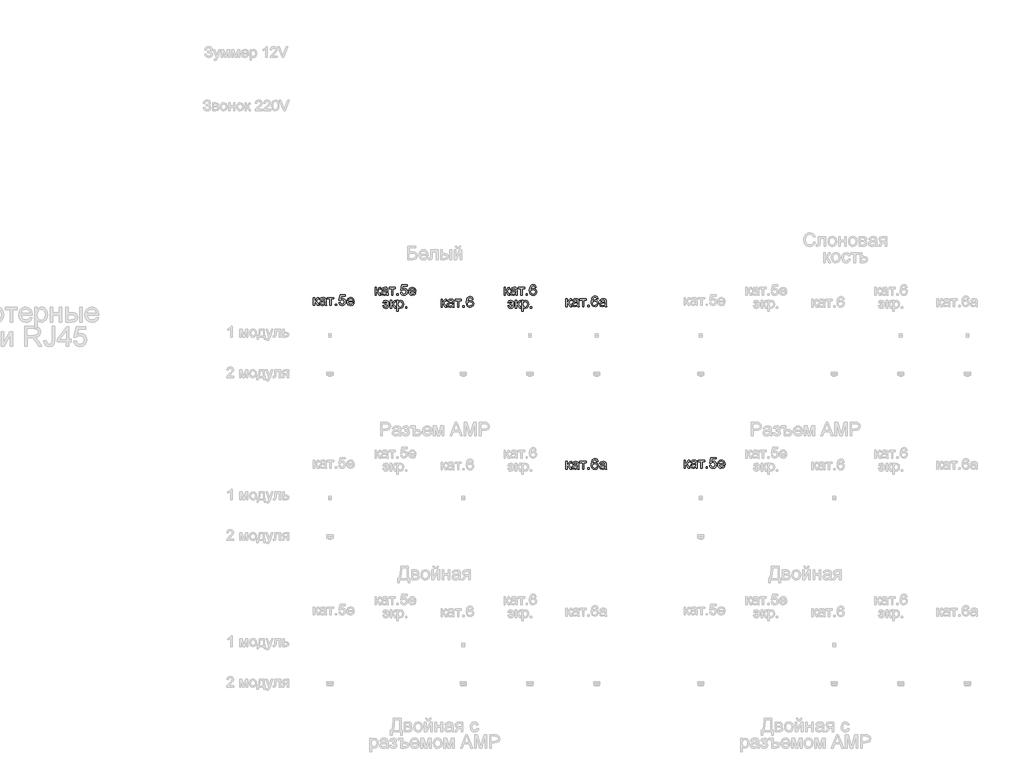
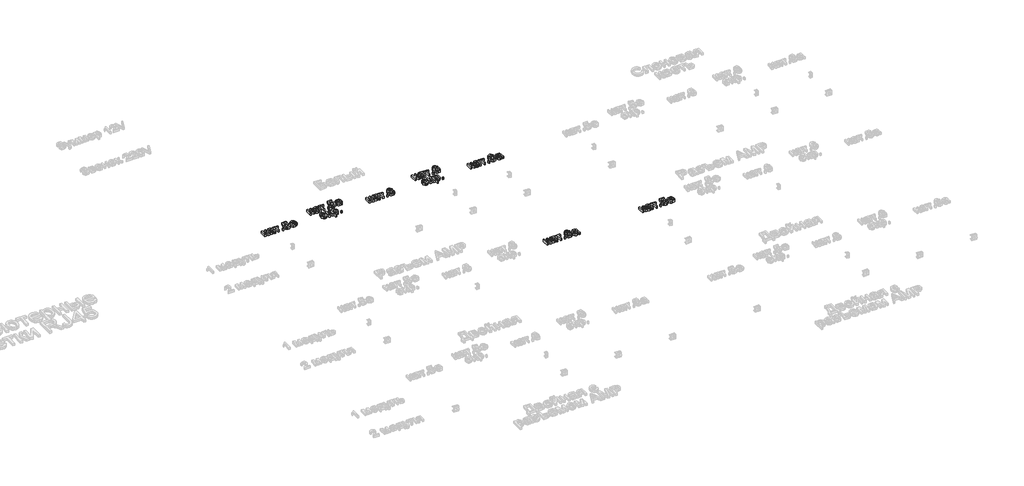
# One storey, part 27 of 47: 7 proxies.
"""IFC4 building model written with IfcOpenShell, lengths in millimetres."""

import ifcopenshell
import ifcopenshell.guid

model = None  # the IFC model being written
_history = None  # IfcOwnerHistory: only IFC2X3 demands one
_inside = {}  # id of a spatial element -> (the spatial element, [elements in it])
_under = {}  # id of a project, library or spatial element -> (it, [spatial elements below it])
_declared = {}  # id of a project -> (the project, [libraries it declares])
_typed = {}  # id of a type object -> (the type object, [elements of that type])
_made_of = {}  # id of a material, layer set ... -> (it, [elements and type objects made of it])


def new_model(schema):
    """Start an empty IFC model of exactly this schema.

    Asked for "IFC4X3", IfcOpenShell would pick the latest addendum, in which some entities
    have other attributes; the version numbers below select the first issue.
    IFC2X3 requires an IfcOwnerHistory on every rooted entity: one is made here for all.
    """
    global model, _history
    if schema == "IFC4X3":
        model = ifcopenshell.file(schema_version=(4, 3, 0, 0))
    else:
        model = ifcopenshell.file(schema=schema)
    _inside.clear()
    _under.clear()
    _declared.clear()
    _typed.clear()
    _made_of.clear()
    _history = None
    if model.schema == "IFC2X3":
        org = make("IfcOrganization", Name="unknown")
        user = make(
            "IfcPersonAndOrganization",
            ThePerson=make("IfcPerson", FamilyName="unknown"),
            TheOrganization=org,
        )
        app = make(
            "IfcApplication",
            ApplicationDeveloper=org,
            Version="unknown",
            ApplicationFullName="unknown",
            ApplicationIdentifier="unknown",
        )
        _history = make(
            "IfcOwnerHistory",
            OwningUser=user,
            OwningApplication=app,
            ChangeAction="ADDED",
            CreationDate=0,
        )
    return model


def make(cls, **values):
    """One entity of the class cls with the attributes given. An attribute that is None is left unset."""
    return model.create_entity(
        cls, **{name: value for name, value in values.items() if value is not None}
    )


def rooted(cls, **values):
    """An entity with a GlobalId (a new one), such as an element, a storey or a relation."""
    return make(cls, GlobalId=ifcopenshell.guid.new(), OwnerHistory=_history, **values)


def si_unit(unit_type, name, prefix=None):
    """IfcSIUnit, for example si_unit("LENGTHUNIT", "METRE", prefix="MILLI")."""
    return make("IfcSIUnit", UnitType=unit_type, Prefix=prefix, Name=name)


def assignment(units):
    """IfcUnitAssignment: the units of a project."""
    return None if units is None else make("IfcUnitAssignment", Units=units)


def point(xyz):
    """IfcCartesianPoint."""
    return None if xyz is None else make("IfcCartesianPoint", Coordinates=xyz)


def direction(xyz):
    """IfcDirection."""
    return None if xyz is None else make("IfcDirection", DirectionRatios=xyz)


def frame(location, z_axis=None, x_axis=None):
    """IfcAxis2Placement3D, a coordinate frame: its origin and axes. An axis left out is left unset."""
    return make(
        "IfcAxis2Placement3D",
        Location=point(location),
        Axis=direction(z_axis),
        RefDirection=direction(x_axis),
    )


def origin():
    """The frame at (0, 0, 0) with its axes left unset."""
    return frame((0.0, 0.0, 0.0))


def origin_with_axes():
    """The frame at (0, 0, 0) with the z axis (0, 0, 1) and the x axis (1, 0, 0) written out."""
    return frame((0.0, 0.0, 0.0), z_axis=(0.0, 0.0, 1.0), x_axis=(1.0, 0.0, 0.0))


def place(relative_to, where):
    """IfcLocalPlacement: puts the frame where relative to a parent placement (None: the world)."""
    return make(
        "IfcLocalPlacement", PlacementRelTo=relative_to, RelativePlacement=where
    )


def context(
    kind, dimensions, precision=None, world=None, true_north=None, identifier=None
):
    """IfcGeometricRepresentationContext, for example the 3D "Model" context."""
    return make(
        "IfcGeometricRepresentationContext",
        ContextIdentifier=identifier,
        ContextType=kind,
        CoordinateSpaceDimension=dimensions,
        Precision=precision,
        WorldCoordinateSystem=world,
        TrueNorth=true_north,
    )


def project(units=None, contexts=None):
    """IfcProject with its units and contexts."""
    return rooted(
        "IfcProject",
        Name="project",
        RepresentationContexts=contexts,
        UnitsInContext=assignment(units),
    )


def spatial(cls, under=None, at=None, **own):
    """A site, building, storey or space (cls), placed at a placement, below another one or the project."""
    s = rooted(cls, ObjectPlacement=at, **own)
    if under is not None:
        _under.setdefault(under.id(), (under, []))[1].append(s)
    return s


def polyline(points):
    """IfcPolyline through the points."""
    return make("IfcPolyline", Points=[point(p) for p in points])


def outline(outer, holes=None, kind="AREA"):
    """IfcArbitraryClosedProfileDef: a profile drawn as a closed curve; with holes, ...WithVoids."""
    if holes is None:
        return make("IfcArbitraryClosedProfileDef", ProfileType=kind, OuterCurve=outer)
    return make(
        "IfcArbitraryProfileDefWithVoids",
        ProfileType=kind,
        OuterCurve=outer,
        InnerCurves=holes,
    )


def extrude(swept, where, along, depth):
    """IfcExtrudedAreaSolid: the profile swept, set in the frame where, extruded along a direction by depth."""
    return make(
        "IfcExtrudedAreaSolid",
        SweptArea=swept,
        Position=where,
        ExtrudedDirection=direction(along),
        Depth=depth,
    )


def shape(context_of_items, identifier, shape_type, items):
    """IfcShapeRepresentation: the items that make up one representation, for example the "Body"."""
    return make(
        "IfcShapeRepresentation",
        ContextOfItems=context_of_items,
        RepresentationIdentifier=identifier,
        RepresentationType=shape_type,
        Items=items,
    )


def made_of(thing, what):
    """Note that an element or type object is made of a material, layer set ...; save() writes the relation."""
    if what is not None:
        _made_of.setdefault(what.id(), (what, []))[1].append(thing)
    return thing


def element(
    cls,
    number,
    at=None,
    inside=None,
    cuts=None,
    type_object=None,
    material=None,
    context=None,
    identifier="Body",
    shape_type=None,
    held_by="IfcProductDefinitionShape",
    body=None,
    shapes=None,
    **own,
):
    """One element of the class cls, such as IfcWall. Its Tag is "e" and its number.

    at: its placement. inside: the storey or other place that contains it. cuts: it is an
    opening in that element (IfcRelVoidsElement). A single representation is given by context,
    identifier, shape_type and body (its items); several are given by shapes. held_by: the class
    of the entity that holds the representations. save() writes the other relations.
    """
    e = rooted(cls, Tag="e%d" % number, ObjectPlacement=at, **own)
    if body is not None:
        shapes = [shape(context, identifier, shape_type, body)]
    if shapes is not None:
        e.Representation = make(held_by, Representations=shapes)
    if inside is not None:
        _inside.setdefault(inside.id(), (inside, []))[1].append(e)
    if cuts is not None:
        rooted(
            "IfcRelVoidsElement", RelatingBuildingElement=cuts, RelatedOpeningElement=e
        )
    if type_object is not None:
        _typed.setdefault(type_object.id(), (type_object, []))[1].append(e)
    return made_of(e, material)


def aggregate(whole, parts):
    """IfcRelAggregates: a whole, such as a stair, and the parts it consists of."""
    return rooted("IfcRelAggregates", RelatingObject=whole, RelatedObjects=parts)


def save(model, path):
    """Write the relations noted so far, then the file.

    IfcRelAggregates (storeys below a building ...), IfcRelContainedInSpatialStructure (elements
    in a storey), IfcRelDefinesByType, IfcRelAssociatesMaterial and IfcRelDeclares: one each for
    every whole, place, type object, material and project.
    """
    for whole, parts in _under.values():
        aggregate(whole, parts)
    for where, things in _inside.values():
        rooted(
            "IfcRelContainedInSpatialStructure",
            RelatedElements=things,
            RelatingStructure=where,
        )
    for kind, things in _typed.values():
        rooted("IfcRelDefinesByType", RelatedObjects=things, RelatingType=kind)
    for what, things in _made_of.values():
        rooted("IfcRelAssociatesMaterial", RelatedObjects=things, RelatingMaterial=what)
    for by, libraries in _declared.values():
        rooted("IfcRelDeclares", RelatingContext=by, RelatedDefinitions=libraries)
    model.write(path)


model = new_model("IFC4")

# Units and contexts
model_context = context("Model", 3, world=origin())
ifc_project = project(units=[si_unit("LENGTHUNIT", "METRE", prefix="MILLI")], contexts=[model_context])

# Site, building, storey
site = spatial("IfcSite", under=ifc_project)
building = spatial("IfcBuilding", under=site)
storey = spatial("IfcBuildingStorey", under=building, Name="Этаж 01", Elevation=0.0)

# Proxies
placement = place(None, origin())
element("IfcBuildingElementProxy", 1, Name="80 мм Arial", ObjectType="80 мм Arial", at=placement, inside=storey, context=model_context, shape_type="SweptSolid", body=[
    extrude(outline(polyline([(-119.3935865, -20034.963684), (-109.3479555, -20034.963684), (-109.3479555, -20060.0777615), (-102.6181676, -20058.2726872), (-97.1048427, -20047.7561672), (-92.5234856, -20038.6817447), (-88.4816888, -20035.7288785), (-81.133859, -20034.963684), (-79.2110625, -20034.963684), (-79.2110625, -20045.0681761), (-81.918674, -20045.009315), (-86.8237672, -20046.0688151), (-90.2769529, -20052.6808809), (-94.3285599, -20059.8325069), (-100.0086579, -20063.3347434), (-93.6712774, -20067.2441028), (-87.4516192, -20075.4797544), (-76.6996547, -20093.9817662), (-88.1187119, -20093.9817662), (-98.6548522, -20075.8721618), (-103.9523529, -20068.2104062), (-109.3479555, -20066.3562809), (-109.3479555, -20093.9817662), (-119.3935865, -20093.9817662), (-119.3935865, -20034.963684)])), origin_with_axes(), (0.0, 0.0, 1.0), 20.0),
    extrude(outline(polyline([(-32.750019, -20086.4475429), (-42.4915343, -20093.2558124), (-53.2533089, -20095.2374701), (-67.8410563, -20090.4697194), (-72.9325431, -20078.2854677), (-71.0097465, -20070.3392166), (-65.9575005, -20064.570827), (-58.9235967, -20061.2746043), (-50.2317715, -20059.7638355), (-32.8088802, -20056.3106499), (-32.750019, -20054.0739274), (-35.5164916, -20046.6574263), (-46.6216228, -20043.7536111), (-56.7849761, -20045.6862179), (-61.6312082, -20052.5435383), (-71.6768392, -20051.2878344), (-67.3309266, -20041.4776478), (-58.5802402, -20035.7288785), (-45.3266782, -20033.7079801), (-33.1522367, -20035.4934341), (-26.2752959, -20039.9766893), (-23.1948974, -20046.7947689), (-22.704388, -20055.5846961), (-22.704388, -20068.0828737), (-22.1942583, -20085.5351956), (-20.1929803, -20093.9817662), (-30.2386113, -20093.9817662), (-32.750019, -20086.4475429)]), holes=[polyline([(-32.750019, -20066.3562809), (-48.9564472, -20069.4366795), (-57.5992215, -20071.0651704), (-61.513486, -20073.7139208), (-62.8869121, -20077.5791343), (-59.8948052, -20083.0139776), (-51.1146882, -20085.1918391), (-40.951335, -20082.7883434), (-34.3981304, -20076.9709027), (-32.8088802, -20069.201235), (-32.750019, -20066.3562809)])]), origin_with_axes(), (0.0, 0.0, 1.0), 20.0),
    extrude(outline(polyline([(-13.9144609, -20034.963684), (33.8022864, -20034.963684), (33.8022864, -20045.009315), (14.9667283, -20045.009315), (14.9667283, -20093.9817662), (4.9210973, -20093.9817662), (4.9210973, -20045.009315), (-13.9144609, -20045.009315), (-13.9144609, -20034.963684)])), origin_with_axes(), (0.0, 0.0, 1.0), 20.0),
    extrude(outline(polyline([(45.1036213, -20093.9817662), (45.1036213, -20083.9361352), (55.1492523, -20083.9361352), (55.1492523, -20093.9817662), (45.1036213, -20093.9817662)])), origin_with_axes(), (0.0, 0.0, 1.0), 20.0),
    extrude(outline(polyline([(71.4734027, -20072.6348003), (81.5190338, -20071.3790964), (86.58109, -20081.7288432), (97.0779896, -20085.1918391), (109.6742691, -20080.3750375), (114.1673346, -20067.5923644), (109.9587645, -20055.6631776), (97.2349526, -20051.2878344), (88.4155949, -20053.0340476), (82.7747376, -20057.5663538), (72.7291066, -20056.3106499), (81.5190338, -20014.872422), (120.4458539, -20014.872422), (120.4458539, -20024.918053), (89.6418682, -20024.918053), (85.3450065, -20047.0498338), (100.0406659, -20041.2422034), (109.4265619, -20043.0423726), (117.2183026, -20048.4428803), (122.4642998, -20056.6736268), (124.2129656, -20066.9645125), (122.6384306, -20077.0101435), (117.9148258, -20085.6038669), (108.8698338, -20092.8290693), (97.0387489, -20095.2374701), (87.1721537, -20093.6899131), (79.3117418, -20089.0472424), (73.9234968, -20081.849018), (71.4734027, -20072.6348003)])), origin_with_axes(), (0.0, 0.0, 1.0), 20.0),
    extrude(outline(polyline([(176.8348062, -20076.4019119), (186.6842334, -20077.6576158), (177.4724683, -20090.6266824), (160.314452, -20095.2374701), (148.5275129, -20093.2484548), (139.4579954, -20087.2814088), (133.6748905, -20077.7238346), (131.7471888, -20064.9632344), (133.6945109, -20051.7734386), (139.5364769, -20041.9092961), (148.4833671, -20035.7583091), (159.7454612, -20033.7079801), (170.6568412, -20035.753404), (179.3756445, -20041.8896757), (185.0925307, -20051.7341979), (186.9981594, -20064.9043733), (186.9392983, -20067.6119848), (141.7928198, -20067.6119848), (147.5710197, -20080.6595329), (160.5106558, -20085.1918391), (170.360083, -20083.0924591), (176.8348062, -20076.4019119)]), holes=[polyline([(141.7928198, -20057.5663538), (176.9525284, -20057.5663538), (172.9303519, -20048.4625007), (159.7062205, -20043.7536111), (147.3355752, -20047.5109126), (141.7928198, -20057.5663538)])]), origin_with_axes(), (0.0, 0.0, 1.0), 20.0),
])
element("IfcBuildingElementProxy", 2, Name="80 мм Arial", ObjectType="80 мм Arial", at=placement, inside=storey, context=model_context, shape_type="SweptSolid", body=[
    extrude(outline(polyline([(343.2827356, -19958.8197599), (353.3283666, -19958.8197599), (353.3283666, -19983.9338374), (360.0581546, -19982.1287631), (365.5714794, -19971.6122431), (370.1528365, -19962.5378206), (374.1946334, -19959.5849544), (381.5424631, -19958.8197599), (383.4652597, -19958.8197599), (383.4652597, -19968.924252), (380.7576482, -19968.8653909), (375.8525549, -19969.924891), (372.3993693, -19976.5369568), (368.3477622, -19983.6885828), (362.6676642, -19987.1908193), (369.0050447, -19991.1001787), (375.224703, -19999.3358303), (385.9766674, -20017.8378421), (374.5576103, -20017.8378421), (364.02147, -19999.7282377), (358.7239692, -19992.0664821), (353.3283666, -19990.2123568), (353.3283666, -20017.8378421), (343.2827356, -20017.8378421), (343.2827356, -19958.8197599)])), origin_with_axes(), (0.0, 0.0, 1.0), 20.0),
    extrude(outline(polyline([(429.9263031, -20010.3036188), (420.1847879, -20017.1118883), (409.4230133, -20019.093546), (394.8352659, -20014.3257953), (389.7437791, -20002.1415436), (391.6665756, -19994.1952925), (396.7188217, -19988.4269029), (403.7527254, -19985.1306802), (412.4445507, -19983.6199114), (429.867442, -19980.1667258), (429.9263031, -19977.9300033), (427.1598305, -19970.5135022), (416.0546994, -19967.609687), (405.8913461, -19969.5422938), (401.045114, -19976.3996142), (390.9994829, -19975.1439103), (395.3453956, -19965.3337237), (404.096082, -19959.5849544), (417.349644, -19957.564056), (429.5240855, -19959.34951), (436.4010262, -19963.8327652), (439.4814248, -19970.6508448), (439.9719341, -19979.440772), (439.9719341, -19991.9389496), (440.4820638, -20009.3912715), (442.4833419, -20017.8378421), (432.4377109, -20017.8378421), (429.9263031, -20010.3036188)]), holes=[polyline([(429.9263031, -19990.2123568), (413.719875, -19993.2927554), (405.0771006, -19994.9212463), (401.1628362, -19997.5699967), (399.7894101, -20001.4352102), (402.781517, -20006.8700535), (411.5616339, -20009.047915), (421.7249872, -20006.6444193), (428.2781918, -20000.8269786), (429.867442, -19993.0573109), (429.9263031, -19990.2123568)])]), origin_with_axes(), (0.0, 0.0, 1.0), 20.0),
    extrude(outline(polyline([(448.7618613, -19958.8197599), (496.4786086, -19958.8197599), (496.4786086, -19968.8653909), (477.6430504, -19968.8653909), (477.6430504, -20017.8378421), (467.5974194, -20017.8378421), (467.5974194, -19968.8653909), (448.7618613, -19968.8653909), (448.7618613, -19958.8197599)])), origin_with_axes(), (0.0, 0.0, 1.0), 20.0),
    extrude(outline(polyline([(507.7799435, -20017.8378421), (507.7799435, -20007.7922111), (517.8255745, -20007.7922111), (517.8255745, -20017.8378421), (507.7799435, -20017.8378421)])), origin_with_axes(), (0.0, 0.0, 1.0), 20.0),
    extrude(outline(polyline([(534.1497249, -19996.4908762), (544.1953559, -19995.2351723), (549.2574122, -20005.5849191), (559.7543118, -20009.047915), (572.3505913, -20004.2311134), (576.8436567, -19991.4484403), (572.6350867, -19979.5192535), (559.9112748, -19975.1439103), (551.0919171, -19976.8901235), (545.4510598, -19981.4224297), (535.4054288, -19980.1667258), (544.1953559, -19938.7284978), (583.1221761, -19938.7284978), (583.1221761, -19948.7741289), (552.3181904, -19948.7741289), (548.0213287, -19970.9059097), (562.7169881, -19965.0982793), (572.1028841, -19966.8984485), (579.8946247, -19972.2989562), (585.140622, -19980.5297027), (586.8892877, -19990.8205884), (585.3147528, -20000.8662194), (580.591148, -20009.4599428), (571.546156, -20016.6851452), (559.715071, -20019.093546), (549.8484759, -20017.545989), (541.9880639, -20012.9033183), (536.599819, -20005.7050939), (534.1497249, -19996.4908762)])), origin_with_axes(), (0.0, 0.0, 1.0), 20.0),
    extrude(outline(polyline([(639.5111283, -20000.2579878), (649.3605556, -20001.5136917), (640.1487904, -20014.4827583), (622.9907742, -20019.093546), (611.2038351, -20017.1045306), (602.1343176, -20011.1374847), (596.3512126, -20001.5799105), (594.423511, -19988.8193103), (596.370833, -19975.6295145), (602.2127991, -19965.7653719), (611.1596892, -19959.614385), (622.4217834, -19957.564056), (633.3331634, -19959.6094799), (642.0519666, -19965.7457516), (647.7688528, -19975.5902738), (649.6744816, -19988.7604492), (649.6156205, -19991.4680607), (604.469142, -19991.4680607), (610.2473419, -20004.5156088), (623.1869779, -20009.047915), (633.0364052, -20006.948535), (639.5111283, -20000.2579878)]), holes=[polyline([(604.469142, -19981.4224297), (639.6288506, -19981.4224297), (635.6066741, -19972.3185766), (622.3825426, -19967.609687), (610.0118974, -19971.3669885), (604.469142, -19981.4224297)])]), origin_with_axes(), (0.0, 0.0, 1.0), 20.0),
    extrude(outline(polyline([(418.6249682, -20079.0022839), (437.4605264, -20079.0022839), (432.91841, -20069.0253242), (423.3730985, -20065.1895413), (415.2306437, -20067.700949), (411.090745, -20075.2351723), (401.045114, -20073.9794684), (407.9416751, -20060.4119804), (422.764867, -20055.1439103), (433.0189644, -20057.1942393), (440.8646611, -20063.3452262), (445.8457833, -20073.0867415), (447.5061574, -20085.9086553), (446.1351838, -20098.6717079), (441.3944112, -20108.7075288), (433.6468164, -20115.0350991), (423.2553763, -20116.6734002), (414.3477269, -20115.2043248), (407.3236333, -20110.7970985), (399.7894101, -20095.3264343), (409.8350411, -20094.0707305), (414.1613334, -20103.4885095), (423.0984133, -20106.6277692), (433.0459424, -20102.2328057), (437.4605264, -20089.047915), (418.6249682, -20089.047915), (418.6249682, -20079.0022839)])), origin_with_axes(), (0.0, 0.0, 1.0), 20.0),
    extrude(outline(polyline([(458.8074923, -20056.3996142), (468.8531233, -20056.3996142), (468.8531233, -20081.5136917), (475.5829113, -20079.7086174), (481.0962361, -20069.1920974), (485.6775932, -20060.1176749), (489.7193901, -20057.1648087), (497.0672198, -20056.3996142), (498.9900164, -20056.3996142), (498.9900164, -20066.5041063), (496.2824049, -20066.4452452), (491.3773116, -20067.5047453), (487.9241259, -20074.116811), (483.8725189, -20081.268437), (478.1924209, -20084.7706736), (484.5298014, -20088.680033), (490.7494597, -20096.9156846), (501.5014241, -20115.4176964), (490.082367, -20115.4176964), (479.5462266, -20097.308092), (474.2487259, -20089.6463363), (468.8531233, -20087.7922111), (468.8531233, -20115.4176964), (458.8074923, -20115.4176964), (458.8074923, -20056.3996142)])), origin_with_axes(), (0.0, 0.0, 1.0), 20.0),
    extrude(outline(polyline([(507.7799435, -20138.0203662), (507.7799435, -20056.3996142), (517.8255745, -20056.3996142), (517.8255745, -20066.2490414), (524.7711866, -20057.9201931), (534.1497249, -20055.1439103), (546.883347, -20059.0287441), (555.2023852, -20069.9769123), (558.0080986, -20085.4573867), (554.8394083, -20101.7324861), (545.6374533, -20112.8179969), (532.9332618, -20116.6734002), (524.1923856, -20114.0933212), (517.8255745, -20107.5695471), (517.8255745, -20138.0203662), (507.7799435, -20138.0203662)]), holes=[polyline([(517.8255745, -20086.3795442), (522.1714871, -20101.6834352), (532.7174377, -20106.6277692), (543.4792123, -20101.5068519), (547.9624676, -20085.63397), (543.5871244, -20070.2908383), (533.1294655, -20065.1895413), (522.4657927, -20070.6145744), (517.8255745, -20086.3795442)])]), origin_with_axes(), (0.0, 0.0, 1.0), 20.0),
    extrude(outline(polyline([(571.8208412, -20115.4176964), (571.8208412, -20105.3720654), (581.8664722, -20105.3720654), (581.8664722, -20115.4176964), (571.8208412, -20115.4176964)])), origin_with_axes(), (0.0, 0.0, 1.0), 20.0),
])
element("IfcBuildingElementProxy", 3, Name="80 мм Arial", ObjectType="80 мм Arial", at=placement, inside=storey, context=model_context, shape_type="SweptSolid", body=[
    extrude(outline(polyline([(837.8748928, -20047.654338), (847.9205238, -20047.654338), (847.9205238, -20072.7684155), (854.6503118, -20070.9633412), (860.1636366, -20060.4468212), (864.7449937, -20051.3723987), (868.7867906, -20048.4195325), (876.1346203, -20047.654338), (878.0574169, -20047.654338), (878.0574169, -20057.7588301), (875.3498054, -20057.699969), (870.4447121, -20058.7594692), (866.9915264, -20065.3715349), (862.9399194, -20072.5231609), (857.2598214, -20076.0253975), (863.5972019, -20079.9347568), (869.8168602, -20088.1704084), (880.5688246, -20106.6724202), (869.1497675, -20106.6724202), (858.6136271, -20088.5628159), (853.3161264, -20080.9010602), (847.9205238, -20079.0469349), (847.9205238, -20106.6724202), (837.8748928, -20106.6724202), (837.8748928, -20047.654338)])), origin_with_axes(), (0.0, 0.0, 1.0), 20.0),
    extrude(outline(polyline([(924.5184603, -20099.1381969), (914.7769451, -20105.9464664), (904.0151704, -20107.9281241), (889.4274231, -20103.1603734), (884.3359362, -20090.9761218), (886.2587328, -20083.0298707), (891.3109789, -20077.261481), (898.3448826, -20073.9652583), (907.0367079, -20072.4544896), (924.4595992, -20069.0013039), (924.5184603, -20066.7645814), (921.7519877, -20059.3480804), (910.6468565, -20056.4442651), (900.4835033, -20058.3768719), (895.6372711, -20065.2341923), (885.5916401, -20063.9784884), (889.9375528, -20054.1683019), (898.6882391, -20048.4195325), (911.9418012, -20046.3986341), (924.1162427, -20048.1840881), (930.9931834, -20052.6673433), (934.073582, -20059.485423), (934.5640913, -20068.2753501), (934.5640913, -20080.7735278), (935.074221, -20098.2258496), (937.0754991, -20106.6724202), (927.0298681, -20106.6724202), (924.5184603, -20099.1381969)]), holes=[polyline([(924.5184603, -20079.0469349), (908.3120321, -20082.1273335), (899.6692578, -20083.7558245), (895.7549934, -20086.4045748), (894.3815673, -20090.2697883), (897.3736742, -20095.7046317), (906.1537911, -20097.8824931), (916.3171444, -20095.4789974), (922.870349, -20089.6615568), (924.4595992, -20081.891889), (924.5184603, -20079.0469349)])]), origin_with_axes(), (0.0, 0.0, 1.0), 20.0),
    extrude(outline(polyline([(943.3540185, -20047.654338), (991.0707658, -20047.654338), (991.0707658, -20057.699969), (972.2352076, -20057.699969), (972.2352076, -20106.6724202), (962.1895766, -20106.6724202), (962.1895766, -20057.699969), (943.3540185, -20057.699969), (943.3540185, -20047.654338)])), origin_with_axes(), (0.0, 0.0, 1.0), 20.0),
    extrude(outline(polyline([(1002.3721007, -20106.6724202), (1002.3721007, -20096.6267892), (1012.4177317, -20096.6267892), (1012.4177317, -20106.6724202), (1002.3721007, -20106.6724202)])), origin_with_axes(), (0.0, 0.0, 1.0), 20.0),
    extrude(outline(polyline([(1080.225741, -20047.654338), (1070.18011, -20048.9100419), (1066.3737576, -20040.5321426), (1056.3085063, -20036.3530031), (1047.2438939, -20038.7859294), (1040.3865735, -20047.919213), (1037.5318092, -20065.8228035), (1046.3904077, -20057.8078811), (1057.3680064, -20055.1885613), (1066.6484429, -20056.9789203), (1074.437731, -20062.3499974), (1079.7205164, -20070.5562185), (1081.4814449, -20080.8520092), (1078.1656019, -20094.7138028), (1069.0421284, -20104.5239894), (1055.876858, -20107.9281241), (1044.4798738, -20105.6717812), (1035.4029987, -20098.9027525), (1029.4653833, -20086.9539453), (1027.4861782, -20069.1582669), (1029.68366, -20049.1503914), (1036.2761053, -20035.4700863), (1045.2769515, -20028.5980506), (1056.9363582, -20026.3073721), (1065.7508108, -20027.724944), (1072.80924, -20031.9776599), (1080.225741, -20047.654338)]), holes=[polyline([(1037.5318092, -20080.6950463), (1039.8568234, -20089.3966817), (1046.0372409, -20095.7144418), (1055.0920431, -20097.8824931), (1066.9329383, -20093.3894276), (1071.4358139, -20081.1855556), (1066.9917994, -20069.5016234), (1054.6800153, -20065.2341923), (1042.5251942, -20069.5016234), (1037.5318092, -20080.6950463)])]), origin_with_axes(), (0.0, 0.0, 1.0), 20.0),
])
element("IfcBuildingElementProxy", 4, Name="80 мм Arial", ObjectType="80 мм Arial", at=placement, inside=storey, context=model_context, shape_type="SweptSolid", body=[
    extrude(outline(polyline([(1310.9396889, -19958.8197599), (1320.9853199, -19958.8197599), (1320.9853199, -19983.9338374), (1327.7151079, -19982.1287631), (1333.2284327, -19971.6122431), (1337.8097899, -19962.5378206), (1341.8515867, -19959.5849544), (1349.1994164, -19958.8197599), (1351.122213, -19958.8197599), (1351.122213, -19968.924252), (1348.4146015, -19968.8653909), (1343.5095082, -19969.924891), (1340.0563226, -19976.5369568), (1336.0047155, -19983.6885828), (1330.3246175, -19987.1908193), (1336.661998, -19991.1001787), (1342.8816563, -19999.3358303), (1353.6336207, -20017.8378421), (1342.2145636, -20017.8378421), (1331.6784233, -19999.7282377), (1326.3809225, -19992.0664821), (1320.9853199, -19990.2123568), (1320.9853199, -20017.8378421), (1310.9396889, -20017.8378421), (1310.9396889, -19958.8197599)])), origin_with_axes(), (0.0, 0.0, 1.0), 20.0),
    extrude(outline(polyline([(1397.5832564, -20010.3036188), (1387.8417412, -20017.1118883), (1377.0799666, -20019.093546), (1362.4922192, -20014.3257953), (1357.4007324, -20002.1415436), (1359.3235289, -19994.1952925), (1364.375775, -19988.4269029), (1371.4096787, -19985.1306802), (1380.101504, -19983.6199114), (1397.5243953, -19980.1667258), (1397.5832564, -19977.9300033), (1394.8167838, -19970.5135022), (1383.7116527, -19967.609687), (1373.5482994, -19969.5422938), (1368.7020673, -19976.3996142), (1358.6564362, -19975.1439103), (1363.0023489, -19965.3337237), (1371.7530353, -19959.5849544), (1385.0065973, -19957.564056), (1397.1810388, -19959.34951), (1404.0579795, -19963.8327652), (1407.1383781, -19970.6508448), (1407.6288874, -19979.440772), (1407.6288874, -19991.9389496), (1408.1390171, -20009.3912715), (1410.1402952, -20017.8378421), (1400.0946642, -20017.8378421), (1397.5832564, -20010.3036188)]), holes=[polyline([(1397.5832564, -19990.2123568), (1381.3768283, -19993.2927554), (1372.7340539, -19994.9212463), (1368.8197895, -19997.5699967), (1367.4463634, -20001.4352102), (1370.4384703, -20006.8700535), (1379.2185872, -20009.047915), (1389.3819405, -20006.6444193), (1395.9351451, -20000.8269786), (1397.5243953, -19993.0573109), (1397.5832564, -19990.2123568)])]), origin_with_axes(), (0.0, 0.0, 1.0), 20.0),
    extrude(outline(polyline([(1416.4188146, -19958.8197599), (1464.1355619, -19958.8197599), (1464.1355619, -19968.8653909), (1445.3000037, -19968.8653909), (1445.3000037, -20017.8378421), (1435.2543727, -20017.8378421), (1435.2543727, -19968.8653909), (1416.4188146, -19968.8653909), (1416.4188146, -19958.8197599)])), origin_with_axes(), (0.0, 0.0, 1.0), 20.0),
    extrude(outline(polyline([(1475.4368968, -20017.8378421), (1475.4368968, -20007.7922111), (1485.4825278, -20007.7922111), (1485.4825278, -20017.8378421), (1475.4368968, -20017.8378421)])), origin_with_axes(), (0.0, 0.0, 1.0), 20.0),
    extrude(outline(polyline([(1553.2905372, -19958.8197599), (1543.2449061, -19960.0754638), (1539.4385538, -19951.6975645), (1529.3733024, -19947.518425), (1520.30869, -19949.9513512), (1513.4513696, -19959.0846349), (1510.5966053, -19976.9882253), (1519.4552038, -19968.9733029), (1530.4328025, -19966.3539831), (1539.713239, -19968.1443422), (1547.5025271, -19973.5154193), (1552.7853126, -19981.7216404), (1554.546241, -19992.0174311), (1551.230398, -20005.8792247), (1542.1069245, -20015.6894112), (1528.9416542, -20019.093546), (1517.54467, -20016.8372031), (1508.4677949, -20010.0681744), (1502.5301795, -19998.1193672), (1500.5509743, -19980.3236888), (1502.7484561, -19960.3158133), (1509.3409015, -19946.6355082), (1518.3417476, -19939.7634725), (1530.0011543, -19937.472794), (1538.8156069, -19938.8903659), (1545.8740361, -19943.1430818), (1553.2905372, -19958.8197599)]), holes=[polyline([(1510.5966053, -19991.8604681), (1512.9216196, -20000.5621036), (1519.1020371, -20006.8798637), (1528.1568392, -20009.047915), (1539.9977344, -20004.5548495), (1544.50061, -19992.3509775), (1540.0565955, -19980.6670453), (1527.7448114, -19976.3996142), (1515.5899903, -19980.6670453), (1510.5966053, -19991.8604681)])]), origin_with_axes(), (0.0, 0.0, 1.0), 20.0),
    extrude(outline(polyline([(1355.5171766, -20079.0022839), (1374.3527347, -20079.0022839), (1369.8106183, -20069.0253242), (1360.2653068, -20065.1895413), (1352.122852, -20067.700949), (1347.9829533, -20075.2351723), (1337.9373223, -20073.9794684), (1344.8338834, -20060.4119804), (1359.6570753, -20055.1439103), (1369.9111727, -20057.1942393), (1377.7568694, -20063.3452262), (1382.7379916, -20073.0867415), (1384.3983657, -20085.9086553), (1383.0273922, -20098.6717079), (1378.2866195, -20108.7075288), (1370.5390247, -20115.0350991), (1360.1475846, -20116.6734002), (1351.2399352, -20115.2043248), (1344.2158417, -20110.7970985), (1336.6816184, -20095.3264343), (1346.7272494, -20094.0707305), (1351.0535417, -20103.4885095), (1359.9906216, -20106.6277692), (1369.9381508, -20102.2328057), (1374.3527347, -20089.047915), (1355.5171766, -20089.047915), (1355.5171766, -20079.0022839)])), origin_with_axes(), (0.0, 0.0, 1.0), 20.0),
    extrude(outline(polyline([(1395.6997006, -20056.3996142), (1405.7453316, -20056.3996142), (1405.7453316, -20081.5136917), (1412.4751196, -20079.7086174), (1417.9884444, -20069.1920974), (1422.5698015, -20060.1176749), (1426.6115984, -20057.1648087), (1433.9594281, -20056.3996142), (1435.8822247, -20056.3996142), (1435.8822247, -20066.5041063), (1433.1746132, -20066.4452452), (1428.2695199, -20067.5047453), (1424.8163343, -20074.116811), (1420.7647272, -20081.268437), (1415.0846292, -20084.7706736), (1421.4220097, -20088.680033), (1427.641668, -20096.9156846), (1438.3936324, -20115.4176964), (1426.9745753, -20115.4176964), (1416.438435, -20097.308092), (1411.1409342, -20089.6463363), (1405.7453316, -20087.7922111), (1405.7453316, -20115.4176964), (1395.6997006, -20115.4176964), (1395.6997006, -20056.3996142)])), origin_with_axes(), (0.0, 0.0, 1.0), 20.0),
    extrude(outline(polyline([(1444.6721518, -20138.0203662), (1444.6721518, -20056.3996142), (1454.7177828, -20056.3996142), (1454.7177828, -20066.2490414), (1461.6633949, -20057.9201931), (1471.0419332, -20055.1439103), (1483.7755553, -20059.0287441), (1492.0945935, -20069.9769123), (1494.9003069, -20085.4573867), (1491.7316166, -20101.7324861), (1482.5296617, -20112.8179969), (1469.8254701, -20116.6734002), (1461.0845939, -20114.0933212), (1454.7177828, -20107.5695471), (1454.7177828, -20138.0203662), (1444.6721518, -20138.0203662)]), holes=[polyline([(1454.7177828, -20086.3795442), (1459.0636955, -20101.6834352), (1469.609646, -20106.6277692), (1480.3714206, -20101.5068519), (1484.8546759, -20085.63397), (1480.4793327, -20070.2908383), (1470.0216738, -20065.1895413), (1459.3580011, -20070.6145744), (1454.7177828, -20086.3795442)])]), origin_with_axes(), (0.0, 0.0, 1.0), 20.0),
    extrude(outline(polyline([(1508.7130495, -20115.4176964), (1508.7130495, -20105.3720654), (1518.7586805, -20105.3720654), (1518.7586805, -20115.4176964), (1508.7130495, -20115.4176964)])), origin_with_axes(), (0.0, 0.0, 1.0), 20.0),
])
element("IfcBuildingElementProxy", 5, Name="80 мм Arial", ObjectType="80 мм Arial", at=placement, inside=storey, context=model_context, shape_type="SweptSolid", body=[
    extrude(outline(polyline([(1774.3437127, -20043.42412), (1784.3893437, -20043.42412), (1784.3893437, -20068.5381975), (1791.1191317, -20066.7331232), (1796.6324565, -20056.2166032), (1801.2138137, -20047.1421807), (1805.2556105, -20044.1893145), (1812.6034402, -20043.42412), (1814.5262368, -20043.42412), (1814.5262368, -20053.5286121), (1811.8186253, -20053.469751), (1806.913532, -20054.5292512), (1803.4603464, -20061.1413169), (1799.4087393, -20068.2929429), (1793.7286413, -20071.7951795), (1800.0660218, -20075.7045388), (1806.2856801, -20083.9401904), (1817.0376445, -20102.4422022), (1805.6185874, -20102.4422022), (1795.0824471, -20084.3325979), (1789.7849463, -20076.6708422), (1784.3893437, -20074.8167169), (1784.3893437, -20102.4422022), (1774.3437127, -20102.4422022), (1774.3437127, -20043.42412)])), origin_with_axes(), (0.0, 0.0, 1.0), 20.0),
    extrude(outline(polyline([(1860.9872802, -20094.9079789), (1851.245765, -20101.7162484), (1840.4839904, -20103.6979061), (1825.896243, -20098.9301554), (1820.8047562, -20086.7459037), (1822.7275527, -20078.7996526), (1827.7797988, -20073.031263), (1834.8137026, -20069.7350403), (1843.5055278, -20068.2242716), (1860.9284191, -20064.7710859), (1860.9872802, -20062.5343634), (1858.2208076, -20055.1178623), (1847.1156765, -20052.2140471), (1836.9523232, -20054.1466539), (1832.1060911, -20061.0039743), (1822.0604601, -20059.7482704), (1826.4063727, -20049.9380839), (1835.1570591, -20044.1893145), (1848.4106211, -20042.1684161), (1860.5850626, -20043.9538701), (1867.4620034, -20048.4371253), (1870.5424019, -20055.255205), (1871.0329113, -20064.0451321), (1871.0329113, -20076.5433097), (1871.543041, -20093.9956316), (1873.544319, -20102.4422022), (1863.498688, -20102.4422022), (1860.9872802, -20094.9079789)]), holes=[polyline([(1860.9872802, -20074.8167169), (1844.7808521, -20077.8971155), (1836.1380777, -20079.5256065), (1832.2238133, -20082.1743568), (1830.8503872, -20086.0395703), (1833.8424941, -20091.4744137), (1842.622611, -20093.6522751), (1852.7859643, -20091.2487794), (1859.3391689, -20085.4313387), (1860.9284191, -20077.661671), (1860.9872802, -20074.8167169)])]), origin_with_axes(), (0.0, 0.0, 1.0), 20.0),
    extrude(outline(polyline([(1879.8228384, -20043.42412), (1927.5395857, -20043.42412), (1927.5395857, -20053.469751), (1908.7040276, -20053.469751), (1908.7040276, -20102.4422022), (1898.6583965, -20102.4422022), (1898.6583965, -20053.469751), (1879.8228384, -20053.469751), (1879.8228384, -20043.42412)])), origin_with_axes(), (0.0, 0.0, 1.0), 20.0),
    extrude(outline(polyline([(1938.8409206, -20102.4422022), (1938.8409206, -20092.3965712), (1948.8865516, -20092.3965712), (1948.8865516, -20102.4422022), (1938.8409206, -20102.4422022)])), origin_with_axes(), (0.0, 0.0, 1.0), 20.0),
    extrude(outline(polyline([(2016.694561, -20043.42412), (2006.64893, -20044.6798239), (2002.8425776, -20036.3019246), (1992.7773262, -20032.1227851), (1983.7127138, -20034.5557114), (1976.8553934, -20043.688995), (1974.0006292, -20061.5925855), (1982.8592276, -20053.5776631), (1993.8368263, -20050.9583433), (2003.1172628, -20052.7487023), (2010.9065509, -20058.1197794), (2016.1893364, -20066.3260005), (2017.9502648, -20076.6217912), (2014.6344218, -20090.4835848), (2005.5109483, -20100.2937714), (1992.345678, -20103.6979061), (1980.9486938, -20101.4415632), (1971.8718187, -20094.6725345), (1965.9342033, -20082.7237273), (1963.9549981, -20064.9280489), (1966.1524799, -20044.9201734), (1972.7449253, -20031.2398683), (1981.7457714, -20024.3678326), (1993.4051781, -20022.0771541), (2002.2196307, -20023.494726), (2009.2780599, -20027.7474419), (2016.694561, -20043.42412)]), holes=[polyline([(1974.0006292, -20076.4648283), (1976.3256434, -20085.1664637), (1982.5060609, -20091.4842238), (1991.5608631, -20093.6522751), (2003.4017582, -20089.1592096), (2007.9046338, -20076.9553376), (2003.4606193, -20065.2714054), (1991.1488352, -20061.0039743), (1978.9940141, -20065.2714054), (1974.0006292, -20076.4648283)])]), origin_with_axes(), (0.0, 0.0, 1.0), 20.0),
    extrude(outline(polyline([(2066.922716, -20094.9079789), (2057.1812008, -20101.7162484), (2046.4194262, -20103.6979061), (2031.8316788, -20098.9301554), (2026.740192, -20086.7459037), (2028.6629885, -20078.7996526), (2033.7152346, -20073.031263), (2040.7491384, -20069.7350403), (2049.4409636, -20068.2242716), (2066.8638549, -20064.7710859), (2066.922716, -20062.5343634), (2064.1562434, -20055.1178623), (2053.0511123, -20052.2140471), (2042.887759, -20054.1466539), (2038.0415269, -20061.0039743), (2027.9958959, -20059.7482704), (2032.3418085, -20049.9380839), (2041.0924949, -20044.1893145), (2054.3460569, -20042.1684161), (2066.5204984, -20043.9538701), (2073.3974392, -20048.4371253), (2076.4778377, -20055.255205), (2076.9683471, -20064.0451321), (2076.9683471, -20076.5433097), (2077.4784768, -20093.9956316), (2079.4797548, -20102.4422022), (2069.4341238, -20102.4422022), (2066.922716, -20094.9079789)]), holes=[polyline([(2066.922716, -20074.8167169), (2050.7162879, -20077.8971155), (2042.0735135, -20079.5256065), (2038.1592491, -20082.1743568), (2036.785823, -20086.0395703), (2039.7779299, -20091.4744137), (2048.5580468, -20093.6522751), (2058.7214001, -20091.2487794), (2065.2746047, -20085.4313387), (2066.8638549, -20077.661671), (2066.922716, -20074.8167169)])]), origin_with_axes(), (0.0, 0.0, 1.0), 20.0),
])
element("IfcBuildingElementProxy", 6, Name="80 мм Arial", ObjectType="80 мм Arial", at=placement, inside=storey, context=model_context, shape_type="SweptSolid", body=[
    extrude(outline(polyline([(1774.3437127, -21263.42412), (1784.3893437, -21263.42412), (1784.3893437, -21288.5381975), (1791.1191317, -21286.7331232), (1796.6324565, -21276.2166032), (1801.2138137, -21267.1421807), (1805.2556105, -21264.1893145), (1812.6034402, -21263.42412), (1814.5262368, -21263.42412), (1814.5262368, -21273.5286121), (1811.8186253, -21273.469751), (1806.913532, -21274.5292512), (1803.4603464, -21281.1413169), (1799.4087393, -21288.2929429), (1793.7286413, -21291.7951795), (1800.0660218, -21295.7045388), (1806.2856801, -21303.9401904), (1817.0376445, -21322.4422022), (1805.6185874, -21322.4422022), (1795.0824471, -21304.3325979), (1789.7849463, -21296.6708422), (1784.3893437, -21294.8167169), (1784.3893437, -21322.4422022), (1774.3437127, -21322.4422022), (1774.3437127, -21263.42412)])), origin_with_axes(), (0.0, 0.0, 1.0), 20.0),
    extrude(outline(polyline([(1860.9872802, -21314.9079789), (1851.245765, -21321.7162484), (1840.4839904, -21323.6979061), (1825.896243, -21318.9301554), (1820.8047562, -21306.7459037), (1822.7275527, -21298.7996526), (1827.7797988, -21293.031263), (1834.8137026, -21289.7350403), (1843.5055278, -21288.2242716), (1860.9284191, -21284.7710859), (1860.9872802, -21282.5343634), (1858.2208076, -21275.1178623), (1847.1156765, -21272.2140471), (1836.9523232, -21274.1466539), (1832.1060911, -21281.0039743), (1822.0604601, -21279.7482704), (1826.4063727, -21269.9380839), (1835.1570591, -21264.1893145), (1848.4106211, -21262.1684161), (1860.5850626, -21263.9538701), (1867.4620034, -21268.4371253), (1870.5424019, -21275.255205), (1871.0329113, -21284.0451321), (1871.0329113, -21296.5433097), (1871.543041, -21313.9956316), (1873.544319, -21322.4422022), (1863.498688, -21322.4422022), (1860.9872802, -21314.9079789)]), holes=[polyline([(1860.9872802, -21294.8167169), (1844.7808521, -21297.8971155), (1836.1380777, -21299.5256065), (1832.2238133, -21302.1743568), (1830.8503872, -21306.0395703), (1833.8424941, -21311.4744137), (1842.622611, -21313.6522751), (1852.7859643, -21311.2487794), (1859.3391689, -21305.4313387), (1860.9284191, -21297.661671), (1860.9872802, -21294.8167169)])]), origin_with_axes(), (0.0, 0.0, 1.0), 20.0),
    extrude(outline(polyline([(1879.8228384, -21263.42412), (1927.5395857, -21263.42412), (1927.5395857, -21273.469751), (1908.7040276, -21273.469751), (1908.7040276, -21322.4422022), (1898.6583965, -21322.4422022), (1898.6583965, -21273.469751), (1879.8228384, -21273.469751), (1879.8228384, -21263.42412)])), origin_with_axes(), (0.0, 0.0, 1.0), 20.0),
    extrude(outline(polyline([(1938.8409206, -21322.4422022), (1938.8409206, -21312.3965712), (1948.8865516, -21312.3965712), (1948.8865516, -21322.4422022), (1938.8409206, -21322.4422022)])), origin_with_axes(), (0.0, 0.0, 1.0), 20.0),
    extrude(outline(polyline([(2016.694561, -21263.42412), (2006.64893, -21264.6798239), (2002.8425776, -21256.3019246), (1992.7773262, -21252.1227851), (1983.7127138, -21254.5557114), (1976.8553934, -21263.688995), (1974.0006292, -21281.5925855), (1982.8592276, -21273.5776631), (1993.8368263, -21270.9583433), (2003.1172628, -21272.7487023), (2010.9065509, -21278.1197794), (2016.1893364, -21286.3260005), (2017.9502648, -21296.6217912), (2014.6344218, -21310.4835848), (2005.5109483, -21320.2937714), (1992.345678, -21323.6979061), (1980.9486938, -21321.4415632), (1971.8718187, -21314.6725345), (1965.9342033, -21302.7237273), (1963.9549981, -21284.9280489), (1966.1524799, -21264.9201734), (1972.7449253, -21251.2398683), (1981.7457714, -21244.3678326), (1993.4051781, -21242.0771541), (2002.2196307, -21243.494726), (2009.2780599, -21247.7474419), (2016.694561, -21263.42412)]), holes=[polyline([(1974.0006292, -21296.4648283), (1976.3256434, -21305.1664637), (1982.5060609, -21311.4842238), (1991.5608631, -21313.6522751), (2003.4017582, -21309.1592096), (2007.9046338, -21296.9553376), (2003.4606193, -21285.2714054), (1991.1488352, -21281.0039743), (1978.9940141, -21285.2714054), (1974.0006292, -21296.4648283)])]), origin_with_axes(), (0.0, 0.0, 1.0), 20.0),
    extrude(outline(polyline([(2066.922716, -21314.9079789), (2057.1812008, -21321.7162484), (2046.4194262, -21323.6979061), (2031.8316788, -21318.9301554), (2026.740192, -21306.7459037), (2028.6629885, -21298.7996526), (2033.7152346, -21293.031263), (2040.7491384, -21289.7350403), (2049.4409636, -21288.2242716), (2066.8638549, -21284.7710859), (2066.922716, -21282.5343634), (2064.1562434, -21275.1178623), (2053.0511123, -21272.2140471), (2042.887759, -21274.1466539), (2038.0415269, -21281.0039743), (2027.9958959, -21279.7482704), (2032.3418085, -21269.9380839), (2041.0924949, -21264.1893145), (2054.3460569, -21262.1684161), (2066.5204984, -21263.9538701), (2073.3974392, -21268.4371253), (2076.4778377, -21275.255205), (2076.9683471, -21284.0451321), (2076.9683471, -21296.5433097), (2077.4784768, -21313.9956316), (2079.4797548, -21322.4422022), (2069.4341238, -21322.4422022), (2066.922716, -21314.9079789)]), holes=[polyline([(2066.922716, -21294.8167169), (2050.7162879, -21297.8971155), (2042.0735135, -21299.5256065), (2038.1592491, -21302.1743568), (2036.785823, -21306.0395703), (2039.7779299, -21311.4744137), (2048.5580468, -21313.6522751), (2058.7214001, -21311.2487794), (2065.2746047, -21305.4313387), (2066.8638549, -21297.661671), (2066.922716, -21294.8167169)])]), origin_with_axes(), (0.0, 0.0, 1.0), 20.0),
])
element("IfcBuildingElementProxy", 7, Name="80 мм Arial", ObjectType="80 мм Arial", at=placement, inside=storey, context=model_context, shape_type="SweptSolid", body=[
    extrude(outline(polyline([(2660.6064135, -21254.963684), (2670.6520445, -21254.963684), (2670.6520445, -21280.0777615), (2677.3818324, -21278.2726872), (2682.8951573, -21267.7561672), (2687.4765144, -21258.6817447), (2691.5183112, -21255.7288785), (2698.866141, -21254.963684), (2700.7889375, -21254.963684), (2700.7889375, -21265.0681761), (2698.081326, -21265.009315), (2693.1762328, -21266.0688151), (2689.7230471, -21272.6808809), (2685.6714401, -21279.8325069), (2679.9913421, -21283.3347434), (2686.3287226, -21287.2441028), (2692.5483808, -21295.4797544), (2703.3003453, -21313.9817662), (2691.8812881, -21313.9817662), (2681.3451478, -21295.8721618), (2676.0476471, -21288.2104062), (2670.6520445, -21286.3562809), (2670.6520445, -21313.9817662), (2660.6064135, -21313.9817662), (2660.6064135, -21254.963684)])), origin_with_axes(), (0.0, 0.0, 1.0), 20.0),
    extrude(outline(polyline([(2747.249981, -21306.4475429), (2737.5084657, -21313.2558124), (2726.7466911, -21315.2374701), (2712.1589437, -21310.4697194), (2707.0674569, -21298.2854677), (2708.9902535, -21290.3392166), (2714.0424995, -21284.570827), (2721.0764033, -21281.2746043), (2729.7682285, -21279.7638355), (2747.1911198, -21276.3106499), (2747.249981, -21274.0739274), (2744.4835084, -21266.6574263), (2733.3783772, -21263.7536111), (2723.2150239, -21265.6862179), (2718.3687918, -21272.5435383), (2708.3231608, -21271.2878344), (2712.6690734, -21261.4776478), (2721.4197598, -21255.7288785), (2734.6733218, -21253.7079801), (2746.8477633, -21255.4934341), (2753.7247041, -21259.9766893), (2756.8051026, -21266.7947689), (2757.295612, -21275.5846961), (2757.295612, -21288.0828737), (2757.8057417, -21305.5351956), (2759.8070197, -21313.9817662), (2749.7613887, -21313.9817662), (2747.249981, -21306.4475429)]), holes=[polyline([(2747.249981, -21286.3562809), (2731.0435528, -21289.4366795), (2722.4007785, -21291.0651704), (2718.486514, -21293.7139208), (2717.1130879, -21297.5791343), (2720.1051948, -21303.0139776), (2728.8853118, -21305.1918391), (2739.048665, -21302.7883434), (2745.6018696, -21296.9709027), (2747.1911198, -21289.201235), (2747.249981, -21286.3562809)])]), origin_with_axes(), (0.0, 0.0, 1.0), 20.0),
    extrude(outline(polyline([(2766.0855391, -21254.963684), (2813.8022864, -21254.963684), (2813.8022864, -21265.009315), (2794.9667283, -21265.009315), (2794.9667283, -21313.9817662), (2784.9210973, -21313.9817662), (2784.9210973, -21265.009315), (2766.0855391, -21265.009315), (2766.0855391, -21254.963684)])), origin_with_axes(), (0.0, 0.0, 1.0), 20.0),
    extrude(outline(polyline([(2825.1036213, -21313.9817662), (2825.1036213, -21303.9361352), (2835.1492523, -21303.9361352), (2835.1492523, -21313.9817662), (2825.1036213, -21313.9817662)])), origin_with_axes(), (0.0, 0.0, 1.0), 20.0),
    extrude(outline(polyline([(2851.4734027, -21292.6348003), (2861.5190338, -21291.3790964), (2866.58109, -21301.7288432), (2877.0779896, -21305.1918391), (2889.6742691, -21300.3750375), (2894.1673346, -21287.5923644), (2889.9587645, -21275.6631776), (2877.2349526, -21271.2878344), (2868.4155949, -21273.0340476), (2862.7747376, -21277.5663538), (2852.7291066, -21276.3106499), (2861.5190338, -21234.872422), (2900.4458539, -21234.872422), (2900.4458539, -21244.918053), (2869.6418682, -21244.918053), (2865.3450065, -21267.0498338), (2880.0406659, -21261.2422034), (2889.4265619, -21263.0423726), (2897.2183026, -21268.4428803), (2902.4642998, -21276.6736268), (2904.2129656, -21286.9645125), (2902.6384306, -21297.0101435), (2897.9148258, -21305.6038669), (2888.8698338, -21312.8290693), (2877.0387489, -21315.2374701), (2867.1721537, -21313.6899131), (2859.3117418, -21309.0472424), (2853.9234968, -21301.849018), (2851.4734027, -21292.6348003)])), origin_with_axes(), (0.0, 0.0, 1.0), 20.0),
    extrude(outline(polyline([(2956.8348062, -21296.4019119), (2966.6842334, -21297.6576158), (2957.4724683, -21310.6266824), (2940.314452, -21315.2374701), (2928.5275129, -21313.2484548), (2919.4579954, -21307.2814088), (2913.6748905, -21297.7238346), (2911.7471888, -21284.9632344), (2913.6945109, -21271.7734386), (2919.5364769, -21261.9092961), (2928.4833671, -21255.7583091), (2939.7454612, -21253.7079801), (2950.6568412, -21255.753404), (2959.3756445, -21261.8896757), (2965.0925307, -21271.7341979), (2966.9981594, -21284.9043733), (2966.9392983, -21287.6119848), (2921.7928198, -21287.6119848), (2927.5710197, -21300.6595329), (2940.5106558, -21305.1918391), (2950.360083, -21303.0924591), (2956.8348062, -21296.4019119)]), holes=[polyline([(2921.7928198, -21277.5663538), (2956.9525284, -21277.5663538), (2952.9303519, -21268.4625007), (2939.7062205, -21263.7536111), (2927.3355752, -21267.5109126), (2921.7928198, -21277.5663538)])]), origin_with_axes(), (0.0, 0.0, 1.0), 20.0),
])

save(model, "model.ifc")
